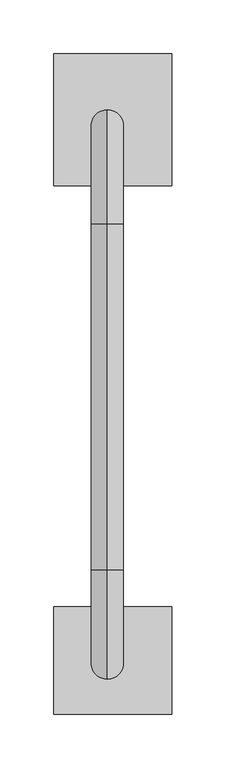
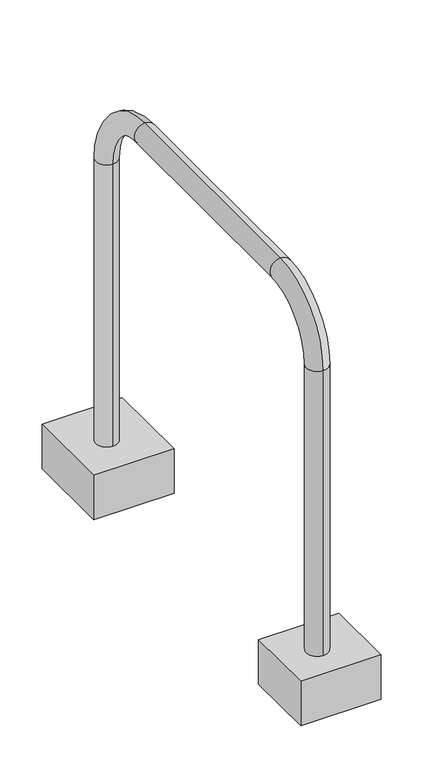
"""IFC4 building model written with IfcOpenShell, lengths in millimetres: furniture geometry, Fixierte Ausstattung Veloständer : Veloständer."""

from ifc_helpers import new_model, si_unit, point, frame, origin, place, context, project, spatial, polyline, circle_curve, ellipse_curve, trimmed, outline, extrude, source, transform, mapped, element, save
from ifc_brep_helpers import plane_surface, cylinder_surface, revolved_surface, advanced_brep


def furniture_8d152977(model_context):
    return source(origin(), model_context, "Body", "SolidModel", [
        extrude(outline(polyline([(-49.9327683, -356.2242628), (-49.9327683, -256.3773713), (60.1165629, -256.3773713), (60.1165629, -356.2242628), (-49.9327683, -356.2242628)])), frame((0.0, 0.0, -64.4715884), z_axis=(0.0, 0.0, 1.0), x_axis=(1.0, 0.0, 0.0)), (0.0, 0.0, 1.0), 64.4715884),
        extrude(outline(polyline([(-49.9327683, 135.7733814), (-49.9327683, 258.4081088), (60.1165629, 258.4081088), (60.1165629, 135.7733814), (-49.9327683, 135.7733814)])), frame((0.0, 0.0, -64.4715884), z_axis=(0.0, 0.0, 1.0), x_axis=(1.0, 0.0, 0.0)), (0.0, 0.0, 1.0), 64.4715884),
        advanced_brep(
        [(0.0, 206.2963259, 0.0), (0.0, 176.2963259, 0.0), (0.0, 206.2963259, 408.9713217), (0.0, 176.2963259, 408.9713217), (0.0, 100.2676476, 485.0), (0.0, 100.2676476, 515.0), (0.0, -222.0286783, 515.0), (0.0, -222.0286783, 485.0), (0.0, -293.7036741, 413.3250042), (0.0, -323.7036741, 413.3250042), (0.0, -323.7036741, 0.0), (0.0, -293.7036741, 0.0)],
        [
            (0, 1, circle_curve(frame((0.0, 191.2963259, 0.0), z_axis=(0.0, 0.0, -1.0), x_axis=(0.0, -1.0, 0.0)), 15.0)),
            (1, 0, circle_curve(frame((0.0, 191.2963259, 0.0), z_axis=(0.0, 0.0, -1.0), x_axis=(0.0, -1.0, 0.0)), 15.0)),
            (0, 2),
            (2, 3, circle_curve(frame((0.0, 191.2963259, 408.9713217), z_axis=(0.0, 0.0, -1.0), x_axis=(0.0, -1.0, 0.0)), 15.0)),
            (3, 1),
            (3, 2, circle_curve(frame((0.0, 191.2963259, 408.9713217), z_axis=(0.0, 0.0, -1.0), x_axis=(0.0, -1.0, 0.0)), 15.0)),
            (4, 3, circle_curve(frame((0.0, 100.2676476, 408.9713217), z_axis=(-1.0, 0.0, 0.0), x_axis=(0.0, 1.0, 0.0)), 76.0286783)),
            (2, 5, circle_curve(frame((0.0, 100.2676476, 408.9713217), z_axis=(1.0, 0.0, 0.0), x_axis=(0.0, 1.0, 0.0)), 106.0286783)),
            (5, 4, circle_curve(frame((0.0, 100.2676476, 500.0), z_axis=(0.0, 1.0, 0.0), x_axis=(0.0, 0.0, -1.0)), 15.0)),
            (4, 5, circle_curve(frame((0.0, 100.2676476, 500.0), z_axis=(0.0, 1.0, 0.0), x_axis=(0.0, 0.0, -1.0)), 15.0)),
            (5, 6),
            (6, 7, circle_curve(frame((0.0, -222.0286783, 500.0), z_axis=(0.0, 1.0, 0.0), x_axis=(0.0, 0.0, -1.0)), 15.0)),
            (7, 4),
            (7, 6, circle_curve(frame((0.0, -222.0286783, 500.0), z_axis=(0.0, 1.0, 0.0), x_axis=(0.0, 0.0, -1.0)), 15.0)),
            (8, 7, circle_curve(frame((0.0, -222.0286783, 413.3250042), z_axis=(-1.0, 0.0, 0.0), x_axis=(0.0, 0.0, 1.0)), 71.6749958)),
            (6, 9, circle_curve(frame((0.0, -222.0286783, 413.3250042), z_axis=(1.0, 0.0, 0.0), x_axis=(0.0, 0.0, 1.0)), 101.6749958)),
            (9, 8, circle_curve(frame((0.0, -308.7036741, 413.3250042), z_axis=(0.0, 0.0, 1.0), x_axis=(0.0, 1.0, 0.0)), 15.0)),
            (8, 9, circle_curve(frame((0.0, -308.7036741, 413.3250042), z_axis=(0.0, 0.0, 1.0), x_axis=(0.0, 1.0, 0.0)), 15.0)),
            (10, 11, circle_curve(frame((0.0, -308.7036741, 0.0), z_axis=(0.0, 0.0, -1.0), x_axis=(0.0, 1.0, 0.0)), 15.0)),
            (11, 10, circle_curve(frame((0.0, -308.7036741, 0.0), z_axis=(0.0, 0.0, -1.0), x_axis=(0.0, 1.0, 0.0)), 15.0)),
            (9, 10),
            (11, 8),
        ],
        [
            plane_surface(frame((0.0, 191.2963259, 0.0), z_axis=(0.0, 0.0, -1.0), x_axis=(1.0, 0.0, 0.0))),
            cylinder_surface(frame((0.0, 191.2963259, 0.0), z_axis=(0.0, 0.0, -1.0), x_axis=(0.0, -1.0, 0.0)), 15.0),
            revolved_surface(trimmed(ellipse_curve(frame((0.0, 191.2963259, 408.9713217), z_axis=(0.0, 0.0, -1.0), x_axis=(0.0, -1.0, 0.0)), 15.0, 15.0), [point((0.0, 206.2963259, 408.9713217))], [point((0.0, 176.2963259, 408.9713217))], True, "CARTESIAN"), (0.0, 100.2676476, 408.9713217), (1.0, 0.0, 0.0)),
            revolved_surface(trimmed(ellipse_curve(frame((0.0, 191.2963259, 408.9713217), z_axis=(0.0, 0.0, -1.0), x_axis=(0.0, -1.0, 0.0)), 15.0, 15.0), [point((0.0, 176.2963259, 408.9713217))], [point((0.0, 206.2963259, 408.9713217))], True, "CARTESIAN"), (0.0, 100.2676476, 408.9713217), (1.0, 0.0, 0.0)),
            cylinder_surface(frame((0.0, 100.2676476, 500.0), z_axis=(0.0, 1.0, 0.0), x_axis=(0.0, 0.0, -1.0)), 15.0),
            revolved_surface(trimmed(ellipse_curve(frame((0.0, -222.0286783, 500.0), z_axis=(0.0, 1.0, 0.0), x_axis=(0.0, 0.0, -1.0)), 15.0, 15.0), [point((0.0, -222.0286783, 515.0))], [point((0.0, -222.0286783, 485.0))], True, "CARTESIAN"), (0.0, -222.0286783, 413.3250042), (1.0, 0.0, 0.0)),
            revolved_surface(trimmed(ellipse_curve(frame((0.0, -222.0286783, 500.0), z_axis=(0.0, 1.0, 0.0), x_axis=(0.0, 0.0, -1.0)), 15.0, 15.0), [point((0.0, -222.0286783, 485.0))], [point((0.0, -222.0286783, 515.0))], True, "CARTESIAN"), (0.0, -222.0286783, 413.3250042), (1.0, 0.0, 0.0)),
            plane_surface(frame((0.0, -308.7036741, 0.0), z_axis=(0.0, 0.0, -1.0), x_axis=(1.0, 0.0, 0.0))),
            cylinder_surface(frame((0.0, -308.7036741, 413.3250042), z_axis=(0.0, 0.0, 1.0), x_axis=(0.0, 1.0, 0.0)), 15.0),
        ],
        [
            (0, [[1, 2]]),
            (1, [[-1, 3, 4, 5]]),
            (1, [[-2, -5, 6, -3]]),
            (2, [[7, -4, 8, 9]]),
            (3, [[-8, -6, -7, 10]]),
            (4, [[-9, 11, 12, 13]]),
            (4, [[-10, -13, 14, -11]]),
            (5, [[15, -12, 16, 17]]),
            (6, [[-16, -14, -15, 18]]),
            (7, [[19, 20]]),
            (8, [[-17, 21, -20, 22]]),
            (8, [[-18, -22, -19, -21]]),
        ],
    ),
    ])


if __name__ == "__main__":
    model = new_model("IFC4")
    model_context = context("Model", 3, world=origin())
    ifc_project = project(units=[si_unit("LENGTHUNIT", "METRE", prefix="MILLI")], contexts=[model_context])
    site = spatial("IfcSite", under=ifc_project)
    building = spatial("IfcBuilding", under=site)
    placement = place(None, origin())
    furniture_shape = furniture_8d152977(model_context)
    element("IfcFurniture", 1, ObjectType="Fixierte Ausstattung Veloständer : Veloständer", at=placement, inside=building, context=model_context, shape_type="MappedRepresentation", body=[
        mapped(furniture_shape, transform((0.0, 0.0, 0.0), x_axis=(1.0, 0.0, 0.0), y_axis=(0.0, 1.0, 0.0), z_axis=(0.0, 0.0, 1.0))),
    ])
    save(model, "model.ifc")
